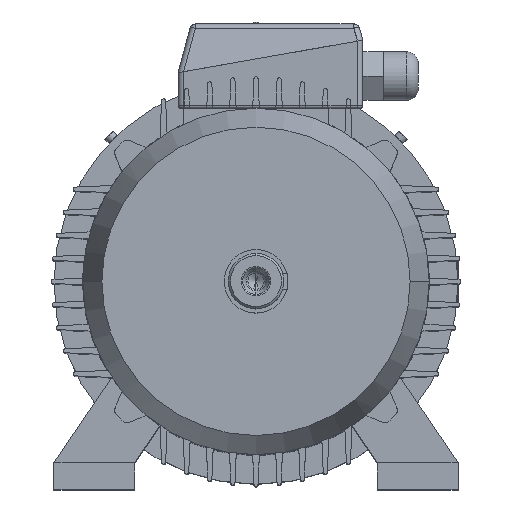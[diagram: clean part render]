
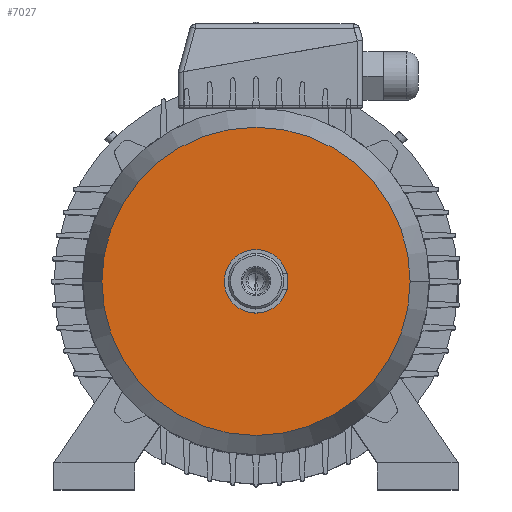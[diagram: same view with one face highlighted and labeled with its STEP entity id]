
A CAD part, top view. The second image highlights one B-rep face of the part: STEP entity #7027.
In plain terms, the highlighted planar face has unit normal (0, 0, 1).
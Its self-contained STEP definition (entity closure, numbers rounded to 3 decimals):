
#1707 = FACE_OUTER_BOUND ( 'NONE', #9549, .T. ) ;
#1708 = PLANE ( 'NONE',  #1709 ) ;
#1709 = AXIS2_PLACEMENT_3D ( 'NONE', #1716, #1717, #1718 ) ;
#1716 = CARTESIAN_POINT ( 'NONE',  ( 0., 133.5, 61. ) ) ;
#1717 = DIRECTION ( 'NONE',  ( 0., 0., 1. ) ) ;
#1718 = DIRECTION ( 'NONE',  ( 1., 0., 0. ) ) ;
#1968 = CARTESIAN_POINT ( 'NONE',  ( -133.5, 0., 61. ) ) ;
#2816 = VERTEX_POINT ( 'NONE', #12531 ) ;
#3137 = CIRCLE ( 'NONE', #3138, 133.5 ) ;
#3138 = AXIS2_PLACEMENT_3D ( 'NONE', #3139, #3140, #3141 ) ;
#3139 = CARTESIAN_POINT ( 'NONE',  ( 0., 0., 61. ) ) ;
#3140 = DIRECTION ( 'NONE',  ( 0., 0., -1. ) ) ;
#3141 = DIRECTION ( 'NONE',  ( -1., 0., 0. ) ) ;
#4840 = CIRCLE ( 'NONE', #4841, 133.5 ) ;
#4841 = AXIS2_PLACEMENT_3D ( 'NONE', #4842, #4843, #4844 ) ;
#4842 = CARTESIAN_POINT ( 'NONE',  ( 0., 0., 61. ) ) ;
#4843 = DIRECTION ( 'NONE',  ( 0., 0., -1. ) ) ;
#4844 = DIRECTION ( 'NONE',  ( -1., 0., 0. ) ) ;
#6526 = ORIENTED_EDGE ( 'NONE', *, *, #9505, .F. ) ;
#7027 = ADVANCED_FACE ( 'NONE', ( #1707 ), #1708, .T. ) ;
#7613 = VERTEX_POINT ( 'NONE', #1968 ) ;
#8955 = EDGE_CURVE ( 'NONE', #2816, #7613, #3137, .T. ) ;
#9505 = EDGE_CURVE ( 'NONE', #7613, #2816, #4840, .T. ) ;
#9549 = EDGE_LOOP ( 'NONE', ( #6526, #11638 ) ) ;
#11638 = ORIENTED_EDGE ( 'NONE', *, *, #8955, .F. ) ;
#12531 = CARTESIAN_POINT ( 'NONE',  ( 133.5, 0., 61. ) ) ;
